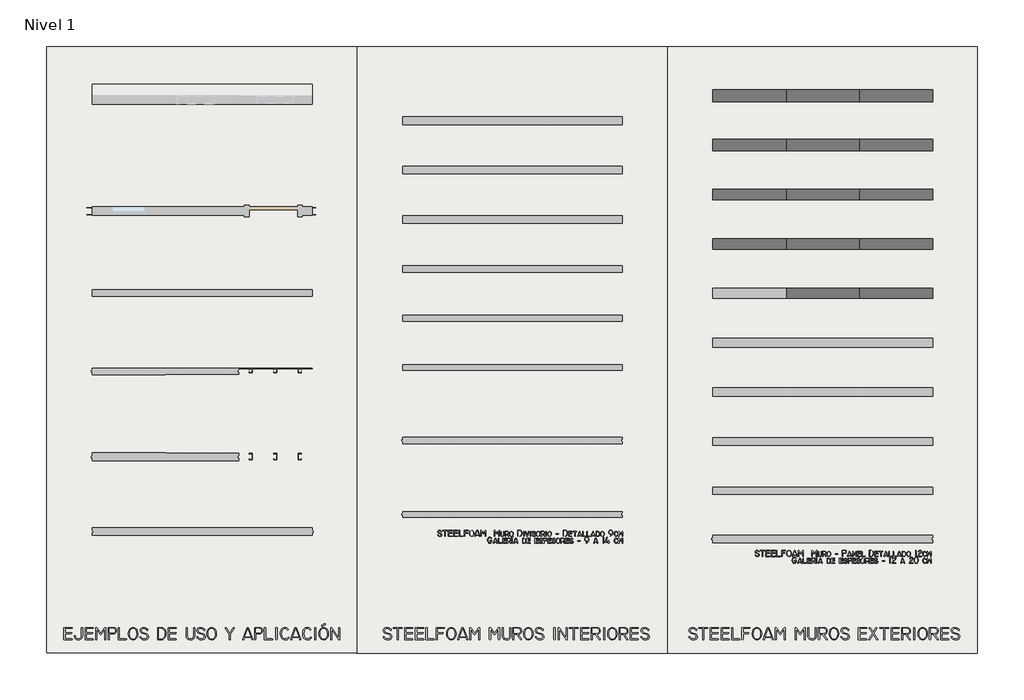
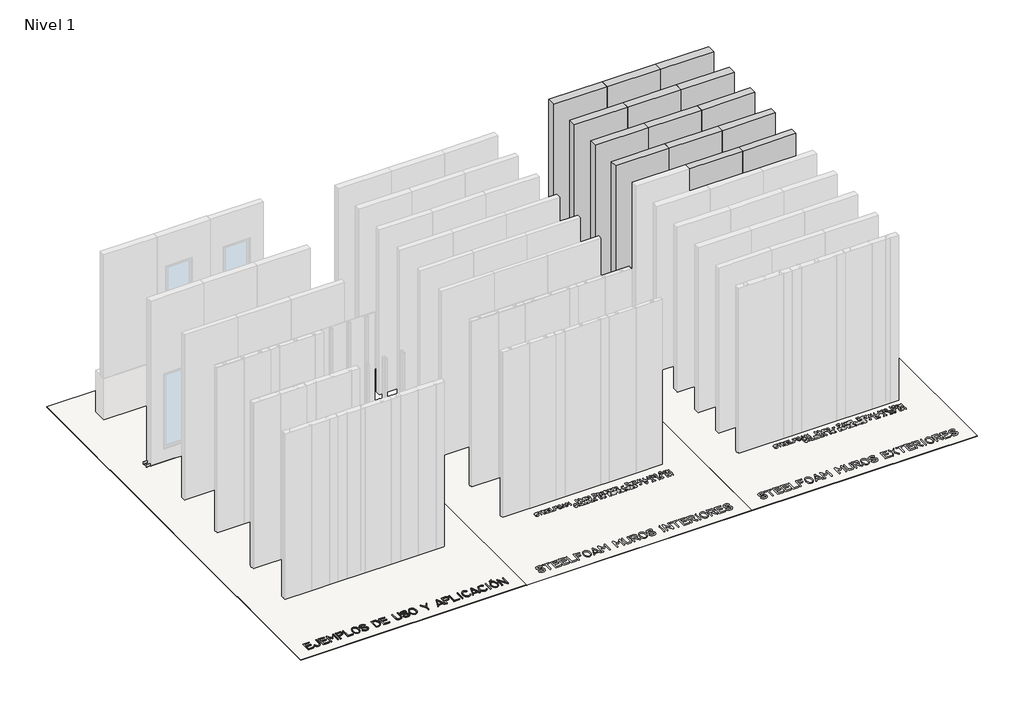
# One storey, part 2 of 6: 14 plates, 3 slabs, 2 proxies.
"""IFC4 building model written with IfcOpenShell, lengths in millimetres."""

import ifcopenshell
import ifcopenshell.guid

model = None  # the IFC model being written
_history = None  # IfcOwnerHistory: only IFC2X3 demands one
_inside = {}  # id of a spatial element -> (the spatial element, [elements in it])
_under = {}  # id of a project, library or spatial element -> (it, [spatial elements below it])
_declared = {}  # id of a project -> (the project, [libraries it declares])
_typed = {}  # id of a type object -> (the type object, [elements of that type])
_made_of = {}  # id of a material, layer set ... -> (it, [elements and type objects made of it])


def new_model(schema):
    """Start an empty IFC model of exactly this schema.

    Asked for "IFC4X3", IfcOpenShell would pick the latest addendum, in which some entities
    have other attributes; the version numbers below select the first issue.
    IFC2X3 requires an IfcOwnerHistory on every rooted entity: one is made here for all.
    """
    global model, _history
    if schema == "IFC4X3":
        model = ifcopenshell.file(schema_version=(4, 3, 0, 0))
    else:
        model = ifcopenshell.file(schema=schema)
    _inside.clear()
    _under.clear()
    _declared.clear()
    _typed.clear()
    _made_of.clear()
    _history = None
    if model.schema == "IFC2X3":
        org = make("IfcOrganization", Name="unknown")
        user = make(
            "IfcPersonAndOrganization",
            ThePerson=make("IfcPerson", FamilyName="unknown"),
            TheOrganization=org,
        )
        app = make(
            "IfcApplication",
            ApplicationDeveloper=org,
            Version="unknown",
            ApplicationFullName="unknown",
            ApplicationIdentifier="unknown",
        )
        _history = make(
            "IfcOwnerHistory",
            OwningUser=user,
            OwningApplication=app,
            ChangeAction="ADDED",
            CreationDate=0,
        )
    return model


def make(cls, **values):
    """One entity of the class cls with the attributes given. An attribute that is None is left unset."""
    return model.create_entity(
        cls, **{name: value for name, value in values.items() if value is not None}
    )


def rooted(cls, **values):
    """An entity with a GlobalId (a new one), such as an element, a storey or a relation."""
    return make(cls, GlobalId=ifcopenshell.guid.new(), OwnerHistory=_history, **values)


def si_unit(unit_type, name, prefix=None):
    """IfcSIUnit, for example si_unit("LENGTHUNIT", "METRE", prefix="MILLI")."""
    return make("IfcSIUnit", UnitType=unit_type, Prefix=prefix, Name=name)


def assignment(units):
    """IfcUnitAssignment: the units of a project."""
    return None if units is None else make("IfcUnitAssignment", Units=units)


def point(xyz):
    """IfcCartesianPoint."""
    return None if xyz is None else make("IfcCartesianPoint", Coordinates=xyz)


def direction(xyz):
    """IfcDirection."""
    return None if xyz is None else make("IfcDirection", DirectionRatios=xyz)


def frame(location, z_axis=None, x_axis=None):
    """IfcAxis2Placement3D, a coordinate frame: its origin and axes. An axis left out is left unset."""
    return make(
        "IfcAxis2Placement3D",
        Location=point(location),
        Axis=direction(z_axis),
        RefDirection=direction(x_axis),
    )


def frame_2d(location, x_axis=None):
    """IfcAxis2Placement2D, a coordinate frame in the plane: its origin and x axis."""
    return make(
        "IfcAxis2Placement2D", Location=point(location), RefDirection=direction(x_axis)
    )


def origin():
    """The frame at (0, 0, 0) with its axes left unset."""
    return frame((0.0, 0.0, 0.0))


def origin_with_axes():
    """The frame at (0, 0, 0) with the z axis (0, 0, 1) and the x axis (1, 0, 0) written out."""
    return frame((0.0, 0.0, 0.0), z_axis=(0.0, 0.0, 1.0), x_axis=(1.0, 0.0, 0.0))


def place(relative_to, where):
    """IfcLocalPlacement: puts the frame where relative to a parent placement (None: the world)."""
    return make(
        "IfcLocalPlacement", PlacementRelTo=relative_to, RelativePlacement=where
    )


def context(
    kind, dimensions, precision=None, world=None, true_north=None, identifier=None
):
    """IfcGeometricRepresentationContext, for example the 3D "Model" context."""
    return make(
        "IfcGeometricRepresentationContext",
        ContextIdentifier=identifier,
        ContextType=kind,
        CoordinateSpaceDimension=dimensions,
        Precision=precision,
        WorldCoordinateSystem=world,
        TrueNorth=true_north,
    )


def project(units=None, contexts=None):
    """IfcProject with its units and contexts."""
    return rooted(
        "IfcProject",
        Name="project",
        RepresentationContexts=contexts,
        UnitsInContext=assignment(units),
    )


def spatial(cls, under=None, at=None, **own):
    """A site, building, storey or space (cls), placed at a placement, below another one or the project."""
    s = rooted(cls, ObjectPlacement=at, **own)
    if under is not None:
        _under.setdefault(under.id(), (under, []))[1].append(s)
    return s


def polyline(points):
    """IfcPolyline through the points."""
    return make("IfcPolyline", Points=[point(p) for p in points])


def circle_curve(where, radius):
    """IfcCircle in the frame where."""
    return make("IfcCircle", Position=where, Radius=radius)


def trimmed(basis, trim1, trim2, sense, master):
    """IfcTrimmedCurve: the piece of a basis curve between two trims."""
    return make(
        "IfcTrimmedCurve",
        BasisCurve=basis,
        Trim1=trim1,
        Trim2=trim2,
        SenseAgreement=sense,
        MasterRepresentation=master,
    )


def segment(curve, same_sense, transition):
    """IfcCompositeCurveSegment."""
    return make(
        "IfcCompositeCurveSegment",
        Transition=transition,
        SameSense=same_sense,
        ParentCurve=curve,
    )


def composite_curve(segments, self_intersect=None):
    """IfcCompositeCurve: segments joined end to end."""
    return make("IfcCompositeCurve", Segments=segments, SelfIntersect=self_intersect)


def outline(outer, holes=None, kind="AREA"):
    """IfcArbitraryClosedProfileDef: a profile drawn as a closed curve; with holes, ...WithVoids."""
    if holes is None:
        return make("IfcArbitraryClosedProfileDef", ProfileType=kind, OuterCurve=outer)
    return make(
        "IfcArbitraryProfileDefWithVoids",
        ProfileType=kind,
        OuterCurve=outer,
        InnerCurves=holes,
    )


def extrude(swept, where, along, depth):
    """IfcExtrudedAreaSolid: the profile swept, set in the frame where, extruded along a direction by depth."""
    return make(
        "IfcExtrudedAreaSolid",
        SweptArea=swept,
        Position=where,
        ExtrudedDirection=direction(along),
        Depth=depth,
    )


def shape(context_of_items, identifier, shape_type, items):
    """IfcShapeRepresentation: the items that make up one representation, for example the "Body"."""
    return make(
        "IfcShapeRepresentation",
        ContextOfItems=context_of_items,
        RepresentationIdentifier=identifier,
        RepresentationType=shape_type,
        Items=items,
    )


def made_of(thing, what):
    """Note that an element or type object is made of a material, layer set ...; save() writes the relation."""
    if what is not None:
        _made_of.setdefault(what.id(), (what, []))[1].append(thing)
    return thing


def element(
    cls,
    number,
    at=None,
    inside=None,
    cuts=None,
    type_object=None,
    material=None,
    context=None,
    identifier="Body",
    shape_type=None,
    held_by="IfcProductDefinitionShape",
    body=None,
    shapes=None,
    **own,
):
    """One element of the class cls, such as IfcWall. Its Tag is "e" and its number.

    at: its placement. inside: the storey or other place that contains it. cuts: it is an
    opening in that element (IfcRelVoidsElement). A single representation is given by context,
    identifier, shape_type and body (its items); several are given by shapes. held_by: the class
    of the entity that holds the representations. save() writes the other relations.
    """
    e = rooted(cls, Tag="e%d" % number, ObjectPlacement=at, **own)
    if body is not None:
        shapes = [shape(context, identifier, shape_type, body)]
    if shapes is not None:
        e.Representation = make(held_by, Representations=shapes)
    if inside is not None:
        _inside.setdefault(inside.id(), (inside, []))[1].append(e)
    if cuts is not None:
        rooted(
            "IfcRelVoidsElement", RelatingBuildingElement=cuts, RelatedOpeningElement=e
        )
    if type_object is not None:
        _typed.setdefault(type_object.id(), (type_object, []))[1].append(e)
    return made_of(e, material)


def aggregate(whole, parts):
    """IfcRelAggregates: a whole, such as a stair, and the parts it consists of."""
    return rooted("IfcRelAggregates", RelatingObject=whole, RelatedObjects=parts)


def save(model, path):
    """Write the relations noted so far, then the file.

    IfcRelAggregates (storeys below a building ...), IfcRelContainedInSpatialStructure (elements
    in a storey), IfcRelDefinesByType, IfcRelAssociatesMaterial and IfcRelDeclares: one each for
    every whole, place, type object, material and project.
    """
    for whole, parts in _under.values():
        aggregate(whole, parts)
    for where, things in _inside.values():
        rooted(
            "IfcRelContainedInSpatialStructure",
            RelatedElements=things,
            RelatingStructure=where,
        )
    for kind, things in _typed.values():
        rooted("IfcRelDefinesByType", RelatedObjects=things, RelatingType=kind)
    for what, things in _made_of.values():
        rooted("IfcRelAssociatesMaterial", RelatedObjects=things, RelatingMaterial=what)
    for by, libraries in _declared.values():
        rooted("IfcRelDeclares", RelatingContext=by, RelatedDefinitions=libraries)
    model.write(path)


model = new_model("IFC4")

# Units and contexts
model_context = context("Model", 3, world=origin())
ifc_project = project(units=[si_unit("LENGTHUNIT", "METRE", prefix="MILLI")], contexts=[model_context])

# Site, building, storey
site = spatial("IfcSite", under=ifc_project)
building = spatial("IfcBuilding", under=site)
storey = spatial("IfcBuildingStorey", under=building, Name="Nivel 1", Elevation=0.0)

# Proxies
placement = place(None, origin())
element("IfcBuildingElementProxy", 1, Name="Steelfoam - Canal Arrastre 12cm", ObjectType="Steelfoam - Canal Arrastre 12cm", at=placement, inside=storey, context=model_context, shape_type="SweptSolid", body=[
    extrude(outline(composite_curve([segment(polyline([(-2504.5871251, 0.2), (-2392.5871251, 0.2)]), True, "CONTINUOUS"), segment(trimmed(circle_curve(frame_2d((-2392.5871251, 4.2)), 4.0), [point((-2392.5871251, 0.2))], [point((-2388.5871251, 4.2))], True, "CARTESIAN"), True, "CONTINUOUS"), segment(polyline([(-2388.5871251, 4.2), (-2388.5871251, 59.3231849), (-2388.3871251, 60.2), (-2388.3871251, 4.2)]), True, "CONTINUOUS"), segment(trimmed(circle_curve(frame_2d((-2392.5871251, 4.2)), 4.2), [point((-2388.3871251, 4.2))], [point((-2392.5871251, 0.0))], False, "CARTESIAN"), True, "CONTINUOUS"), segment(polyline([(-2392.5871251, 0.0), (-2504.5871251, 0.0)]), True, "CONTINUOUS"), segment(trimmed(circle_curve(frame_2d((-2504.5871251, 4.2)), 4.2), [point((-2504.5871251, 0.0))], [point((-2508.7871251, 4.2))], False, "CARTESIAN"), True, "CONTINUOUS"), segment(polyline([(-2508.7871251, 4.2), (-2508.7871251, 60.2), (-2508.5871251, 59.3126662), (-2508.5871251, 4.2)]), True, "CONTINUOUS"), segment(trimmed(circle_curve(frame_2d((-2504.5871251, 4.2)), 4.0), [point((-2508.5871251, 4.2))], [point((-2504.5871251, 0.2))], True, "CARTESIAN"), True, "CONTINUOUS")], self_intersect=False)), frame((-2529.1407434, 0.0, 0.0), z_axis=(1.0, 0.0, 0.0), x_axis=(0.0, 1.0, 0.0)), (0.0, 0.0, 1.0), 2700.0),
    extrude(outline(composite_curve([segment(polyline([(-2504.5871251, 0.2), (-2392.5871251, 0.2)]), True, "CONTINUOUS"), segment(trimmed(circle_curve(frame_2d((-2392.5871251, 4.2)), 4.0), [point((-2392.5871251, 0.2))], [point((-2388.5871251, 4.2))], True, "CARTESIAN"), True, "CONTINUOUS"), segment(polyline([(-2388.5871251, 4.2), (-2388.5871251, 59.3231849), (-2388.3871251, 60.2), (-2388.3871251, 4.2)]), True, "CONTINUOUS"), segment(trimmed(circle_curve(frame_2d((-2392.5871251, 4.2)), 4.2), [point((-2388.3871251, 4.2))], [point((-2392.5871251, 0.0))], False, "CARTESIAN"), True, "CONTINUOUS"), segment(polyline([(-2392.5871251, 0.0), (-2504.5871251, 0.0)]), True, "CONTINUOUS"), segment(trimmed(circle_curve(frame_2d((-2504.5871251, 4.2)), 4.2), [point((-2504.5871251, 0.0))], [point((-2508.7871251, 4.2))], False, "CARTESIAN"), True, "CONTINUOUS"), segment(polyline([(-2508.7871251, 4.2), (-2508.7871251, 60.2), (-2508.5871251, 59.3126662), (-2508.5871251, 4.2)]), True, "CONTINUOUS"), segment(trimmed(circle_curve(frame_2d((-2504.5871251, 4.2)), 4.0), [point((-2508.5871251, 4.2))], [point((-2504.5871251, 0.2))], True, "CARTESIAN"), True, "CONTINUOUS")], self_intersect=False)), frame((983.8592566, 0.0, 0.0), z_axis=(1.0, 0.0, 0.0), x_axis=(0.0, 1.0, 0.0)), (0.0, 0.0, 1.0), 300.0),
])
element("IfcBuildingElementProxy", 2, Name="20cm", ObjectType="20cm", at=placement, inside=storey, context=model_context, shape_type="SweptSolid", body=[
    extrude(outline(polyline([(-2781.9460024, -9586.2207698), (-2910.2303771, -9586.2207698), (-2910.2303771, -9379.7142154), (-2781.9460024, -9379.7142154), (-2775.2360061, -9381.278659), (-2772.9993406, -9385.9719898), (-2775.2237839, -9393.011986), (-2781.8971136, -9395.3586514), (-2891.457054, -9395.3586514), (-2891.457054, -9464.1941695), (-2788.3015545, -9464.1941695), (-2781.6282248, -9465.7586131), (-2779.4037816, -9470.4519439), (-2781.6282248, -9477.49194), (-2788.3015545, -9479.8386054), (-2891.457054, -9479.8386054), (-2891.457054, -9570.5763339), (-2781.8971136, -9570.5763339), (-2775.2237839, -9572.1407775), (-2772.9993406, -9576.8341083), (-2775.2360061, -9583.8741044), (-2781.9460024, -9586.2207698)])), origin_with_axes(), (0.0, 0.0, 1.0), 20.0),
    extrude(outline(polyline([(-2600.4705455, -9515.0385863), (-2605.3105429, -9540.1674615), (-2619.830535, -9562.6563382), (-2643.6516332, -9580.3296619), (-2672.6793952, -9586.2207698), (-2697.331604, -9580.9774393), (-2719.0749255, -9565.2474479), (-2733.3749177, -9545.3985698), (-2738.1415818, -9524.2785813), (-2735.8682497, -9520.2085835), (-2729.0482534, -9518.8519176), (-2721.7882573, -9520.3308056), (-2719.3682587, -9524.7674699), (-2715.9215939, -9540.6930168), (-2705.5815995, -9555.1274534), (-2689.4971638, -9566.7141138), (-2672.6305063, -9570.5763339), (-2651.7060732, -9565.9807808), (-2633.5194164, -9552.1941216), (-2622.8127556, -9534.7285756), (-2619.2438687, -9514.5008088), (-2619.2438687, -9385.9719898), (-2616.8972033, -9381.278659), (-2609.8572071, -9379.7142154), (-2602.8172109, -9381.278659), (-2600.4705455, -9385.9719898), (-2600.4705455, -9515.0385863)])), origin_with_axes(), (0.0, 0.0, 1.0), 20.0),
    extrude(outline(polyline([(-2431.5106374, -9586.2207698), (-2559.7950121, -9586.2207698), (-2559.7950121, -9379.7142154), (-2431.5106374, -9379.7142154), (-2424.800641, -9381.278659), (-2422.5639756, -9385.9719898), (-2424.7884188, -9393.011986), (-2431.4617485, -9395.3586514), (-2541.021689, -9395.3586514), (-2541.021689, -9464.1941695), (-2437.8661895, -9464.1941695), (-2431.1928598, -9465.7586131), (-2428.9684165, -9470.4519439), (-2431.1928598, -9477.49194), (-2437.8661895, -9479.8386054), (-2541.021689, -9479.8386054), (-2541.021689, -9570.5763339), (-2431.4617485, -9570.5763339), (-2424.7884188, -9572.1407775), (-2422.5639756, -9576.8341083), (-2424.800641, -9583.8741044), (-2431.5106374, -9586.2207698)])), origin_with_axes(), (0.0, 0.0, 1.0), 20.0),
    extrude(outline(polyline([(-2212.4885342, -9576.8341083), (-2214.8351996, -9583.8741044), (-2221.8751958, -9586.2207698), (-2228.915192, -9583.8741044), (-2231.2618574, -9576.8341083), (-2231.2618574, -9403.2786471), (-2287.8751599, -9490.1052665), (-2297.9951544, -9496.6563741), (-2307.5773714, -9490.6919329), (-2362.6751193, -9403.5719802), (-2362.6751193, -9576.8341083), (-2365.0217846, -9583.8741044), (-2372.0617808, -9586.2207698), (-2379.101777, -9583.8741044), (-2381.4484424, -9576.8341083), (-2381.4484424, -9386.5097673), (-2378.930666, -9381.4131034), (-2371.3773367, -9379.7142154), (-2362.3451194, -9382.244214), (-2355.6840119, -9389.8342099), (-2297.8973767, -9474.0208308), (-2238.9374087, -9390.2742097), (-2231.8485237, -9382.354214), (-2222.9996396, -9379.7142154), (-2215.1163106, -9381.6331033), (-2212.4885342, -9387.3897668), (-2212.4885342, -9576.8341083)])), origin_with_axes(), (0.0, 0.0, 1.0), 20.0),
    extrude(outline(polyline([(-2037.2708517, -9430.998632), (-2040.3264056, -9451.9475095), (-2049.4930673, -9468.1541673), (-2064.6852813, -9479.2641613), (-2085.1330479, -9482.9674926), (-2153.0396777, -9482.9674926), (-2153.0396777, -9576.8341083), (-2155.3863431, -9583.8741044), (-2162.4263392, -9586.2207698), (-2169.4663354, -9583.8741044), (-2171.8130008, -9576.8341083), (-2171.8130008, -9379.7142154), (-2090.7063782, -9379.7142154), (-2067.3283354, -9382.9194915), (-2050.6297333, -9392.5353196), (-2040.6105721, -9408.5616997), (-2037.2708517, -9430.998632)]), holes=[polyline([(-2056.0441748, -9430.9497431), (-2058.2227848, -9415.3786405), (-2064.7586146, -9404.2564243), (-2075.6516642, -9397.5830946), (-2090.9019337, -9395.3586514), (-2153.0396777, -9395.3586514), (-2153.0396777, -9467.3230567), (-2085.6708254, -9467.3230567), (-2073.5341653, -9464.9152802), (-2064.1108371, -9457.6919508), (-2058.0608404, -9446.1908459), (-2056.0441748, -9430.9497431)])]), origin_with_axes(), (0.0, 0.0, 1.0), 20.0),
    extrude(outline(polyline([(-1877.6976051, -9586.2207698), (-2005.9819798, -9586.2207698), (-2005.9819798, -9385.9719898), (-2003.6353144, -9381.278659), (-1996.5953183, -9379.7142154), (-1989.5553221, -9381.278659), (-1987.2086567, -9385.9719898), (-1987.2086567, -9570.5763339), (-1877.6487163, -9570.5763339), (-1870.9753866, -9572.1407775), (-1868.7509433, -9576.8341083), (-1870.9876088, -9583.8741044), (-1877.6976051, -9586.2207698)])), origin_with_axes(), (0.0, 0.0, 1.0), 20.0),
    extrude(outline(polyline([(-1680.5777123, -9482.4297151), (-1685.5277096, -9520.9296942), (-1700.3777015, -9553.3185655), (-1712.2424173, -9567.7132799), (-1725.8365766, -9577.9952187), (-1741.1601794, -9584.164382), (-1758.2132257, -9586.2207698), (-1775.3029386, -9584.1674376), (-1790.7365413, -9578.0074409), (-1804.5140338, -9567.7407799), (-1816.6354161, -9553.3674543), (-1831.9254078, -9520.7952498), (-1837.0220717, -9482.4297151), (-1832.2309632, -9444.8952911), (-1817.8576377, -9412.0786423), (-1806.5581994, -9397.9192055), (-1793.4376509, -9387.8053221), (-1778.4959924, -9381.7369921), (-1761.7332237, -9379.7142154), (-1743.7665668, -9381.7369921), (-1727.7554644, -9387.8053221), (-1713.6999165, -9397.9192055), (-1701.5999231, -9412.0786423), (-1685.833265, -9444.9686244), (-1680.5777123, -9482.4297151)]), holes=[polyline([(-1699.3510354, -9482.4297151), (-1703.3354777, -9449.8575106), (-1715.2888045, -9422.5408588), (-1724.7701883, -9410.648643), (-1735.6632379, -9402.1542032), (-1747.9679534, -9397.0575393), (-1761.6843349, -9395.3586514), (-1774.3557169, -9397.0514282), (-1785.6276552, -9402.1297588), (-1795.5001498, -9410.5936431), (-1803.9732008, -9422.4430811), (-1814.6798616, -9449.6375107), (-1818.2487486, -9482.4297151), (-1814.3498618, -9515.930808), (-1802.6532015, -9543.1007933), (-1793.2757066, -9555.1213423), (-1782.7432123, -9563.7074487), (-1771.0557187, -9568.8591126), (-1758.2132257, -9570.5763339), (-1745.3432326, -9568.8591126), (-1733.7199056, -9563.7074487), (-1723.3432446, -9555.1213423), (-1714.2132496, -9543.1007933), (-1703.066589, -9516.0041413), (-1699.3510354, -9482.4297151)])]), origin_with_axes(), (0.0, 0.0, 1.0), 20.0),
    extrude(outline(polyline([(-1502.2311426, -9530.4874668), (-1506.8297512, -9554.8707869), (-1520.625577, -9572.2874441), (-1543.6186201, -9582.7374384), (-1575.8088804, -9586.2207698), (-1595.7127584, -9583.3668825), (-1614.8466369, -9574.8052205), (-1631.7316277, -9561.2935611), (-1644.8888428, -9543.5896819), (-1646.1599532, -9538.7985734), (-1643.8499545, -9533.8852427), (-1636.9199583, -9532.2474658), (-1630.0755175, -9535.034131), (-1619.2527456, -9550.3546782), (-1605.6555308, -9561.5074499), (-1590.7994278, -9568.3091129), (-1576.1999913, -9570.5763339), (-1552.0519488, -9568.0249464), (-1534.8033471, -9560.3707839), (-1524.4541861, -9547.6138464), (-1521.0044657, -9529.7541338), (-1522.8500203, -9519.1360841), (-1528.3866839, -9509.6730337), (-1550.5333386, -9494.2119309), (-1609.7377508, -9472.2119429), (-1624.3035762, -9463.5280587), (-1634.7077372, -9453.2186199), (-1640.9502338, -9441.2836264), (-1643.0310661, -9427.7230782), (-1639.1107904, -9407.6175336), (-1627.3499635, -9392.9142082), (-1607.7485852, -9383.6131022), (-1580.3066557, -9379.7142154), (-1558.8200007, -9380.1542152), (-1537.57779, -9389.4919879), (-1517.6311342, -9404.1708688), (-1512.6444703, -9412.3628088), (-1510.982249, -9421.1230818), (-1513.19447, -9427.1364119), (-1519.831133, -9429.1408552), (-1525.5022411, -9427.5641894), (-1528.8266837, -9422.834192), (-1535.6955688, -9411.1314206), (-1547.4044514, -9402.1297588), (-1562.3399988, -9396.6114285), (-1578.8888787, -9395.3586514), (-1598.7377568, -9398.2155942), (-1612.9155269, -9404.635313), (-1621.4221889, -9414.6178076), (-1624.2577429, -9428.163078), (-1622.3388551, -9438.3808502), (-1616.5821915, -9447.5230674), (-1593.5555374, -9462.580837), (-1534.4977917, -9485.0208248), (-1520.3811327, -9494.2608198), (-1510.2978049, -9504.9185918), (-1504.2478082, -9516.9941408), (-1502.2311426, -9530.4874668)])), origin_with_axes(), (0.0, 0.0, 1.0), 20.0),
    extrude(outline(polyline([(-1211.2446341, -9474.656386), (-1213.0718554, -9501.3924826), (-1218.553519, -9524.7919143), (-1227.6896252, -9544.8546812), (-1240.4801738, -9561.5807832), (-1253.136278, -9572.3607773), (-1267.1490482, -9580.0607732), (-1282.5184843, -9584.6807707), (-1299.2445863, -9586.2207698), (-1352.0445576, -9586.2207698), (-1352.0445576, -9379.7142154), (-1299.5379195, -9379.7142154), (-1267.2957148, -9385.2753235), (-1240.5779515, -9401.9586478), (-1227.7446252, -9416.6405842), (-1218.5779635, -9433.6508528), (-1213.0779665, -9452.9894534), (-1211.2446341, -9474.656386)]), holes=[polyline([(-1230.0179573, -9474.5097194), (-1231.4632342, -9456.0786183), (-1235.7990652, -9439.7986272), (-1243.0254502, -9425.669746), (-1253.1423891, -9413.6919747), (-1274.4457109, -9399.9419822), (-1299.2445863, -9395.3586514), (-1333.2712345, -9395.3586514), (-1333.2712345, -9570.5763339), (-1298.9512531, -9570.5763339), (-1274.4334887, -9565.2596701), (-1252.9957225, -9549.3096788), (-1242.9429502, -9535.321353), (-1235.7623986, -9518.1919179), (-1231.4540676, -9497.9213734), (-1230.0179573, -9474.5097194)])]), origin_with_axes(), (0.0, 0.0, 1.0), 20.0),
    extrude(outline(polyline([(-1045.4136132, -9586.2207698), (-1173.6979879, -9586.2207698), (-1173.6979879, -9379.7142154), (-1045.4136132, -9379.7142154), (-1038.7036168, -9381.278659), (-1036.4669514, -9385.9719898), (-1038.6913946, -9393.011986), (-1045.3647243, -9395.3586514), (-1154.9246647, -9395.3586514), (-1154.9246647, -9464.1941695), (-1051.7691653, -9464.1941695), (-1045.0958356, -9465.7586131), (-1042.8713923, -9470.4519439), (-1045.0958356, -9477.49194), (-1051.7691653, -9479.8386054), (-1154.9246647, -9479.8386054), (-1154.9246647, -9570.5763339), (-1045.3647243, -9570.5763339), (-1038.6913946, -9572.1407775), (-1036.4669514, -9576.8341083), (-1038.7036168, -9583.8741044), (-1045.4136132, -9586.2207698)])), origin_with_axes(), (0.0, 0.0, 1.0), 20.0),
    extrude(outline(polyline([(-732.5248944, -9516.5052522), (-736.8026698, -9545.1724588), (-749.6359962, -9566.3474473), (-771.0248735, -9580.0302176), (-800.9693016, -9586.2207698), (-827.8337315, -9583.4952157), (-851.5203853, -9571.2118891), (-862.4287127, -9560.7527281), (-870.2203751, -9548.4907903), (-874.8953725, -9534.4260758), (-876.453705, -9518.5585844), (-876.453705, -9385.9719898), (-874.1070396, -9381.278659), (-867.0670435, -9379.7142154), (-860.0270473, -9381.278659), (-857.6803819, -9385.9719898), (-857.6803819, -9518.0208069), (-853.1459399, -9541.7074607), (-839.542614, -9558.8918958), (-821.7226237, -9566.8241137), (-802.2893009, -9570.5763339), (-779.9807019, -9565.9166142), (-764.0459884, -9555.2618978), (-754.4851602, -9538.6121846), (-751.2982175, -9515.9674747), (-751.2982175, -9385.9719898), (-748.9515521, -9381.278659), (-741.911556, -9379.7142154), (-734.8715598, -9381.278659), (-732.5248944, -9385.9719898), (-732.5248944, -9516.5052522)])), origin_with_axes(), (0.0, 0.0, 1.0), 20.0),
    extrude(outline(polyline([(-557.3072119, -9530.4874668), (-561.9058205, -9554.8707869), (-575.7016463, -9572.2874441), (-598.6946894, -9582.7374384), (-630.8849497, -9586.2207698), (-650.7888277, -9583.3668825), (-669.9227062, -9574.8052205), (-686.807697, -9561.2935611), (-699.9649121, -9543.5896819), (-701.2360225, -9538.7985734), (-698.9260238, -9533.8852427), (-691.9960275, -9532.2474658), (-685.1515868, -9535.034131), (-674.3288149, -9550.3546782), (-660.7316001, -9561.5074499), (-645.8754971, -9568.3091129), (-631.2760605, -9570.5763339), (-607.1280181, -9568.0249464), (-589.8794164, -9560.3707839), (-579.5302553, -9547.6138464), (-576.080535, -9529.7541338), (-577.9260896, -9519.1360841), (-583.4627532, -9509.6730337), (-605.6094078, -9494.2119309), (-664.8138201, -9472.2119429), (-679.3796455, -9463.5280587), (-689.7838065, -9453.2186199), (-696.0263031, -9441.2836264), (-698.1071353, -9427.7230782), (-694.1868597, -9407.6175336), (-682.4260327, -9392.9142082), (-662.8246545, -9383.6131022), (-635.382725, -9379.7142154), (-613.89607, -9380.1542152), (-592.6538593, -9389.4919879), (-572.7072035, -9404.1708688), (-567.7205395, -9412.3628088), (-566.0583182, -9421.1230818), (-568.2705392, -9427.1364119), (-574.9072023, -9429.1408552), (-580.5783103, -9427.5641894), (-583.902753, -9422.834192), (-590.7716381, -9411.1314206), (-602.4805206, -9402.1297588), (-617.4160681, -9396.6114285), (-633.964948, -9395.3586514), (-653.8138261, -9398.2155942), (-667.9915961, -9404.635313), (-676.4982582, -9414.6178076), (-679.3338122, -9428.163078), (-677.4149244, -9438.3808502), (-671.6582608, -9447.5230674), (-648.6316067, -9462.580837), (-589.573861, -9485.0208248), (-575.457202, -9494.2608198), (-565.3738742, -9504.9185918), (-559.3238774, -9516.9941408), (-557.3072119, -9530.4874668)])), origin_with_axes(), (0.0, 0.0, 1.0), 20.0),
    extrude(outline(polyline([(-372.7028678, -9482.4297151), (-377.6528651, -9520.9296942), (-392.502857, -9553.3185655), (-404.3675728, -9567.7132799), (-417.9617321, -9577.9952187), (-433.2853349, -9584.164382), (-450.3383811, -9586.2207698), (-467.4280941, -9584.1674376), (-482.8616968, -9578.0074409), (-496.6391893, -9567.7407799), (-508.7605716, -9553.3674543), (-524.0505633, -9520.7952498), (-529.1472272, -9482.4297151), (-524.3561187, -9444.8952911), (-509.9827932, -9412.0786423), (-498.6833549, -9397.9192055), (-485.5628064, -9387.8053221), (-470.6211479, -9381.7369921), (-453.8583792, -9379.7142154), (-435.8917223, -9381.7369921), (-419.8806199, -9387.8053221), (-405.825072, -9397.9192055), (-393.7250786, -9412.0786423), (-377.9584205, -9444.9686244), (-372.7028678, -9482.4297151)]), holes=[polyline([(-391.4761909, -9482.4297151), (-395.4606332, -9449.8575106), (-407.41396, -9422.5408588), (-416.8953438, -9410.648643), (-427.7883934, -9402.1542032), (-440.0931089, -9397.0575393), (-453.8094904, -9395.3586514), (-466.4808724, -9397.0514282), (-477.7528107, -9402.1297588), (-487.6253053, -9410.5936431), (-496.0983563, -9422.4430811), (-506.8050171, -9449.6375107), (-510.3739041, -9482.4297151), (-506.4750173, -9515.930808), (-494.778357, -9543.1007933), (-485.4008621, -9555.1213423), (-474.8683678, -9563.7074487), (-463.1808742, -9568.8591126), (-450.3383811, -9570.5763339), (-437.4683881, -9568.8591126), (-425.8450611, -9563.7074487), (-415.4684001, -9555.1213423), (-406.3384051, -9543.1007933), (-395.1917445, -9516.0041413), (-391.4761909, -9482.4297151)])]), origin_with_axes(), (0.0, 0.0, 1.0), 20.0),
    extrude(outline(polyline([(-75.6541404, -9393.5986523), (-138.0363287, -9489.7630445), (-138.0363287, -9576.8341083), (-140.3829941, -9583.8741044), (-147.4229903, -9586.2207698), (-154.4629864, -9583.8741044), (-156.8096518, -9576.8341083), (-156.8096518, -9489.9585999), (-220.9518392, -9392.9630971), (-222.5162828, -9385.9719898), (-220.0596174, -9381.278659), (-212.6896215, -9379.7142154), (-207.8251797, -9381.1564369), (-204.7696258, -9385.4831012), (-147.520768, -9472.4563872), (-91.6407984, -9385.8742121), (-88.3652446, -9381.2542146), (-83.0363586, -9379.7142154), (-75.006363, -9381.5964366), (-72.3296978, -9387.2431002), (-75.6541404, -9393.5986523)])), origin_with_axes(), (0.0, 0.0, 1.0), 20.0),
    extrude(outline(polyline([(236.0123568, -9575.0252203), (236.8923563, -9577.4207746), (234.4968021, -9584.020771), (227.3101393, -9586.2207698), (221.8590312, -9583.7274378), (218.3145887, -9576.2474419), (204.6745961, -9545.5452364), (97.0213213, -9545.5452364), (83.6746619, -9580.5496618), (80.3257748, -9584.8029928), (74.9724444, -9586.2207698), (67.749115, -9584.020771), (65.3413385, -9577.4207746), (65.9280049, -9575.856331), (137.6479659, -9386.7542116), (141.6568526, -9381.4742145), (149.674626, -9379.7142154), (157.4479551, -9381.5353255), (161.7990638, -9386.9986559), (236.0123568, -9575.0252203)]), holes=[polyline([(198.8079326, -9529.9008004), (149.7724037, -9401.2253148), (102.790207, -9529.9008004), (198.8079326, -9529.9008004)])]), origin_with_axes(), (0.0, 0.0, 1.0), 20.0),
    extrude(outline(polyline([(397.0033804, -9430.998632), (393.9478265, -9451.9475095), (384.7811648, -9468.1541673), (369.5889509, -9479.2641613), (349.1411842, -9482.9674926), (281.2345545, -9482.9674926), (281.2345545, -9576.8341083), (278.8878891, -9583.8741044), (271.8478929, -9586.2207698), (264.8078967, -9583.8741044), (262.4612313, -9576.8341083), (262.4612313, -9379.7142154), (343.5678539, -9379.7142154), (366.9458968, -9382.9194915), (383.6444988, -9392.5353196), (393.66366, -9408.5616997), (397.0033804, -9430.998632)]), holes=[polyline([(378.2300573, -9430.9497431), (376.0514474, -9415.3786405), (369.5156176, -9404.2564243), (358.6225679, -9397.5830946), (343.3722985, -9395.3586514), (281.2345545, -9395.3586514), (281.2345545, -9467.3230567), (348.6034067, -9467.3230567), (360.7400668, -9464.9152802), (370.163395, -9457.6919508), (376.2133917, -9446.1908459), (378.2300573, -9430.9497431)])]), origin_with_axes(), (0.0, 0.0, 1.0), 20.0),
    extrude(outline(polyline([(556.576627, -9586.2207698), (428.2922523, -9586.2207698), (428.2922523, -9385.9719898), (430.6389177, -9381.278659), (437.6789139, -9379.7142154), (444.71891, -9381.278659), (447.0655754, -9385.9719898), (447.0655754, -9570.5763339), (556.6255159, -9570.5763339), (563.2988456, -9572.1407775), (565.5232888, -9576.8341083), (563.2866233, -9583.8741044), (556.576627, -9586.2207698)])), origin_with_axes(), (0.0, 0.0, 1.0), 20.0),
    extrude(outline(polyline([(637.9276939, -9576.8341083), (635.5810285, -9583.8741044), (628.5410323, -9586.2207698), (621.5010361, -9583.8741044), (619.1543707, -9576.8341083), (619.1543707, -9385.9719898), (621.5010361, -9381.278659), (628.5410323, -9379.7142154), (635.5810285, -9381.278659), (637.9276939, -9385.9719898), (637.9276939, -9576.8341083)])), origin_with_axes(), (0.0, 0.0, 1.0), 20.0),
    extrude(outline(polyline([(835.3409199, -9554.4430093), (820.3075947, -9569.6107788), (804.9320475, -9579.425218), (789.4465004, -9584.5218818), (770.7587328, -9586.2207698), (754.0295752, -9584.3813264), (738.8954168, -9578.862996), (725.3562575, -9569.6657788), (713.4120973, -9556.7896747), (703.6587693, -9540.90385), (696.6921064, -9522.677471), (691.1187761, -9479.2030502), (692.6771086, -9455.4155632), (697.352106, -9434.5064079), (705.1437684, -9416.4755843), (716.0520958, -9401.3230926), (738.4676392, -9385.1164347), (766.1142909, -9379.7142154), (786.7698352, -9381.2297701), (801.8031603, -9385.7764343), (815.7364861, -9395.9086511), (826.6387024, -9410.5630875), (828.0075905, -9413.5453081), (825.709814, -9420.4386377), (818.8164844, -9422.7364143), (811.4342662, -9418.2386389), (803.0742708, -9407.0553117), (793.1498317, -9399.8075378), (766.5542906, -9395.3586514), (746.0331907, -9399.8564267), (729.0565332, -9413.3497527), (720.6720933, -9425.9019681), (714.6832077, -9441.0697376), (709.8920992, -9479.2519391), (714.4326523, -9516.4869188), (728.0543115, -9545.5696808), (748.0681896, -9564.3246706), (759.4638778, -9569.0134181), (771.7853989, -9570.5763339), (797.7209403, -9565.3941145), (809.3381562, -9557.6818964), (821.9453716, -9544.9096812), (828.3987014, -9543.0030155), (835.292031, -9544.4207925), (837.5898075, -9548.6741236), (835.3409199, -9554.4430093)])), origin_with_axes(), (0.0, 0.0, 1.0), 20.0),
    extrude(outline(polyline([(1033.8785897, -9575.0252203), (1034.7585892, -9577.4207746), (1032.363035, -9584.020771), (1025.1763722, -9586.2207698), (1019.7252641, -9583.7274378), (1016.1808216, -9576.2474419), (1002.540829, -9545.5452364), (894.8875542, -9545.5452364), (881.5408948, -9580.5496618), (878.1920077, -9584.8029928), (872.8386773, -9586.2207698), (865.6153479, -9584.020771), (863.2075714, -9577.4207746), (863.7942377, -9575.856331), (935.5141988, -9386.7542116), (939.5230855, -9381.4742145), (947.5408589, -9379.7142154), (955.314188, -9381.5353255), (959.6652967, -9386.9986559), (1033.8785897, -9575.0252203)]), holes=[polyline([(996.6741655, -9529.9008004), (947.6386366, -9401.2253148), (900.6564399, -9529.9008004), (996.6741655, -9529.9008004)])]), origin_with_axes(), (0.0, 0.0, 1.0), 20.0),
    extrude(outline(polyline([(1207.6784952, -9554.4430093), (1192.6451701, -9569.6107788), (1177.2696229, -9579.425218), (1161.7840757, -9584.5218818), (1143.0963081, -9586.2207698), (1126.3671506, -9584.3813264), (1111.2329921, -9578.862996), (1097.6938328, -9569.6657788), (1085.7496726, -9556.7896747), (1075.9963446, -9540.90385), (1069.0296817, -9522.677471), (1063.4563514, -9479.2030502), (1065.0146839, -9455.4155632), (1069.6896814, -9434.5064079), (1077.4813438, -9416.4755843), (1088.3896712, -9401.3230926), (1110.8052146, -9385.1164347), (1138.4518662, -9379.7142154), (1159.1074105, -9381.2297701), (1174.1407357, -9385.7764343), (1188.0740614, -9395.9086511), (1198.9762777, -9410.5630875), (1200.3451659, -9413.5453081), (1198.0473894, -9420.4386377), (1191.1540598, -9422.7364143), (1183.7718416, -9418.2386389), (1175.4118461, -9407.0553117), (1165.4874071, -9399.8075378), (1138.891866, -9395.3586514), (1118.370766, -9399.8564267), (1101.3941086, -9413.3497527), (1093.0096687, -9425.9019681), (1087.0207831, -9441.0697376), (1082.2296745, -9479.2519391), (1086.7702276, -9516.4869188), (1100.3918869, -9545.5696808), (1120.4057649, -9564.3246706), (1131.8014532, -9569.0134181), (1144.1229742, -9570.5763339), (1170.0585157, -9565.3941145), (1181.6757316, -9557.6818964), (1194.282947, -9544.9096812), (1200.7362768, -9543.0030155), (1207.6296064, -9544.4207925), (1209.9273829, -9548.6741236), (1207.6784952, -9554.4430093)])), origin_with_axes(), (0.0, 0.0, 1.0), 20.0),
    extrude(outline(polyline([(1285.6073418, -9576.8341083), (1283.2606764, -9583.8741044), (1276.2206802, -9586.2207698), (1269.180684, -9583.8741044), (1266.8340186, -9576.8341083), (1266.8340186, -9385.9719898), (1269.180684, -9381.278659), (1276.2206802, -9379.7142154), (1283.2606764, -9381.278659), (1285.6073418, -9385.9719898), (1285.6073418, -9576.8341083)])), origin_with_axes(), (0.0, 0.0, 1.0), 20.0),
    extrude(outline(polyline([(1492.1138962, -9482.4297151), (1487.1638988, -9520.9296942), (1472.3139069, -9553.3185655), (1460.4491911, -9567.7132799), (1446.8550319, -9577.9952187), (1431.5314291, -9584.164382), (1414.4783828, -9586.2207698), (1397.3886699, -9584.1674376), (1381.9550672, -9578.0074409), (1368.1775746, -9567.7407799), (1356.0561923, -9553.3674543), (1340.7662007, -9520.7952498), (1335.6695368, -9482.4297151), (1340.4606453, -9444.8952911), (1354.8339708, -9412.0786423), (1366.1334091, -9397.9192055), (1379.2539575, -9387.8053221), (1394.1956161, -9381.7369921), (1410.9583847, -9379.7142154), (1428.9250416, -9381.7369921), (1444.936144, -9387.8053221), (1458.9916919, -9397.9192055), (1471.0916854, -9412.0786423), (1486.8583435, -9444.9686244), (1492.1138962, -9482.4297151)]), holes=[polyline([(1473.340573, -9482.4297151), (1469.3561307, -9449.8575106), (1457.4028039, -9422.5408588), (1447.9214202, -9410.648643), (1437.0283705, -9402.1542032), (1424.723655, -9397.0575393), (1411.0072736, -9395.3586514), (1398.3358916, -9397.0514282), (1387.0639533, -9402.1297588), (1377.1914586, -9410.5936431), (1368.7184077, -9422.4430811), (1358.0117468, -9449.6375107), (1354.4428599, -9482.4297151), (1358.3417467, -9515.930808), (1370.038407, -9543.1007933), (1379.4159019, -9555.1213423), (1389.9483961, -9563.7074487), (1401.6358898, -9568.8591126), (1414.4783828, -9570.5763339), (1427.3483758, -9568.8591126), (1438.9717028, -9563.7074487), (1449.3483638, -9555.1213423), (1458.4783589, -9543.1007933), (1469.6250195, -9516.0041413), (1473.340573, -9482.4297151)])]), origin_with_axes(), (0.0, 0.0, 1.0), 20.0),
    extrude(outline(polyline([(1436.771704, -9332.5364633), (1391.696173, -9357.9097828), (1387.785064, -9357.860894), (1380.7817345, -9355.5508952), (1378.4472913, -9348.620899), (1381.6250673, -9344.70979), (1425.2828214, -9320.21647), (1431.3450403, -9317.1364717), (1438.0550367, -9318.969804), (1440.2917021, -9324.469801), (1436.771704, -9332.5364633)])), origin_with_axes(), (0.0, 0.0, 1.0), 20.0),
    extrude(outline(polyline([(1679.8471274, -9577.7629966), (1677.9404618, -9584.1063265), (1672.2204649, -9586.2207698), (1661.4160263, -9580.9407727), (1548.4338655, -9411.5408648), (1548.4338655, -9577.3718857), (1546.0872001, -9584.0085488), (1539.047204, -9586.2207698), (1532.0072078, -9583.9596599), (1529.6605424, -9577.1763303), (1529.6605424, -9385.0431014), (1531.6038747, -9381.0464369), (1537.4338715, -9379.7142154), (1544.1194234, -9381.4008812), (1549.0205319, -9386.4608784), (1661.0738043, -9554.4430093), (1661.0738043, -9385.6297678), (1663.4204697, -9381.1931035), (1670.4604659, -9379.7142154), (1677.500462, -9381.1931035), (1679.8471274, -9385.6297678), (1679.8471274, -9577.7629966)])), origin_with_axes(), (0.0, 0.0, 1.0), 20.0),
])

# Plates
element("IfcPlate", 3, ObjectType="Steelfoam Muro 20cm", at=placement, inside=storey, context=model_context, shape_type="SweptSolid", body=[
    extrude(outline(polyline([(11553.8816566, -625.7596526), (10333.8816569, -625.7596526), (10333.8816569, -425.7596526), (11553.8816566, -425.7596526), (11553.8816566, -625.7596526)])), origin_with_axes(), (0.0, 0.0, 1.0), 4000.0),
])
element("IfcPlate", 4, ObjectType="Steelfoam Muro 20cm", at=placement, inside=storey, context=model_context, shape_type="SweptSolid", body=[
    extrude(outline(polyline([(10333.8816569, -625.7596526), (9113.8816569, -625.7596526), (9113.8816569, -425.7596526), (10333.8816569, -425.7596526), (10333.8816569, -625.7596526)])), origin_with_axes(), (0.0, 0.0, 1.0), 4000.0),
])
element("IfcPlate", 5, ObjectType="Steelfoam Muro 20cm", at=placement, inside=storey, context=model_context, shape_type="SweptSolid", body=[
    extrude(outline(polyline([(9113.8816569, -625.7596526), (7893.8816566, -625.7596526), (7893.8816566, -425.7596526), (9113.8816569, -425.7596526), (9113.8816569, -625.7596526)])), origin_with_axes(), (0.0, 0.0, 1.0), 4000.0),
])
element("IfcPlate", 6, ObjectType="Steelfoam Muro 16cm", at=placement, inside=storey, context=model_context, shape_type="SweptSolid", body=[
    extrude(outline(polyline([(11553.8816566, -3894.6485415), (10333.8816569, -3894.6485415), (10333.8816569, -3734.6485415), (11553.8816566, -3734.6485415), (11553.8816566, -3894.6485415)])), origin_with_axes(), (0.0, 0.0, 1.0), 4000.0),
])
element("IfcPlate", 7, ObjectType="Steelfoam Muro 16cm", at=placement, inside=storey, context=model_context, shape_type="SweptSolid", body=[
    extrude(outline(polyline([(10333.8816569, -3894.6485415), (9113.8816569, -3894.6485415), (9113.8816569, -3734.6485415), (10333.8816569, -3734.6485415), (10333.8816569, -3894.6485415)])), origin_with_axes(), (0.0, 0.0, 1.0), 4000.0),
])
element("IfcPlate", 8, ObjectType="Steelfoam Muro 17cm", at=placement, inside=storey, context=model_context, shape_type="SweptSolid", body=[
    extrude(outline(polyline([(11553.8816566, -3077.4263193), (10333.8816569, -3077.4263193), (10333.8816569, -2907.4263193), (11553.8816566, -2907.4263193), (11553.8816566, -3077.4263193)])), origin_with_axes(), (0.0, 0.0, 1.0), 4000.0),
])
element("IfcPlate", 9, ObjectType="Steelfoam Muro 17cm", at=placement, inside=storey, context=model_context, shape_type="SweptSolid", body=[
    extrude(outline(polyline([(10333.8816569, -3077.4263193), (9113.8816569, -3077.4263193), (9113.8816569, -2907.4263193), (10333.8816569, -2907.4263193), (10333.8816569, -3077.4263193)])), origin_with_axes(), (0.0, 0.0, 1.0), 4000.0),
])
element("IfcPlate", 10, ObjectType="Steelfoam Muro 17cm", at=placement, inside=storey, context=model_context, shape_type="SweptSolid", body=[
    extrude(outline(polyline([(9113.8816569, -3077.4263193), (7893.8816566, -3077.4263193), (7893.8816566, -2907.4263193), (9113.8816569, -2907.4263193), (9113.8816569, -3077.4263193)])), origin_with_axes(), (0.0, 0.0, 1.0), 4000.0),
])
element("IfcPlate", 11, ObjectType="Steelfoam Muro 18cm", at=placement, inside=storey, context=model_context, shape_type="SweptSolid", body=[
    extrude(outline(polyline([(11553.8816566, -2260.2040971), (10333.8816569, -2260.2040971), (10333.8816569, -2080.2040971), (11553.8816566, -2080.2040971), (11553.8816566, -2260.2040971)])), origin_with_axes(), (0.0, 0.0, 1.0), 4000.0),
])
element("IfcPlate", 12, ObjectType="Steelfoam Muro 18cm", at=placement, inside=storey, context=model_context, shape_type="SweptSolid", body=[
    extrude(outline(polyline([(10333.8816569, -2260.2040971), (9113.8816569, -2260.2040971), (9113.8816569, -2080.2040971), (10333.8816569, -2080.2040971), (10333.8816569, -2260.2040971)])), origin_with_axes(), (0.0, 0.0, 1.0), 4000.0),
])
element("IfcPlate", 13, ObjectType="Steelfoam Muro 18cm", at=placement, inside=storey, context=model_context, shape_type="SweptSolid", body=[
    extrude(outline(polyline([(9113.8816569, -2260.2040971), (7893.8816566, -2260.2040971), (7893.8816566, -2080.2040971), (9113.8816569, -2080.2040971), (9113.8816569, -2260.2040971)])), origin_with_axes(), (0.0, 0.0, 1.0), 4000.0),
])
element("IfcPlate", 14, ObjectType="Steelfoam Muro 19cm", at=placement, inside=storey, context=model_context, shape_type="SweptSolid", body=[
    extrude(outline(polyline([(11553.8816566, -1442.9818749), (10333.8816569, -1442.9818749), (10333.8816569, -1252.9818749), (11553.8816566, -1252.9818749), (11553.8816566, -1442.9818749)])), origin_with_axes(), (0.0, 0.0, 1.0), 4000.0),
])
element("IfcPlate", 15, ObjectType="Steelfoam Muro 19cm", at=placement, inside=storey, context=model_context, shape_type="SweptSolid", body=[
    extrude(outline(polyline([(10333.8816569, -1442.9818749), (9113.8816569, -1442.9818749), (9113.8816569, -1252.9818749), (10333.8816569, -1252.9818749), (10333.8816569, -1442.9818749)])), origin_with_axes(), (0.0, 0.0, 1.0), 4000.0),
])
element("IfcPlate", 16, ObjectType="Steelfoam Muro 19cm", at=placement, inside=storey, context=model_context, shape_type="SweptSolid", body=[
    extrude(outline(polyline([(9113.8816569, -1442.9818749), (7893.8816566, -1442.9818749), (7893.8816566, -1252.9818749), (9113.8816569, -1252.9818749), (9113.8816569, -1442.9818749)])), origin_with_axes(), (0.0, 0.0, 1.0), 4000.0),
])

# Slabs
element("IfcSlab", 17, ObjectType="Lamosa_Amur_60x60_Gris_Ceroso", at=placement, inside=storey, context=model_context, shape_type="SweptSolid", body=[
    extrude(outline(polyline([(1966.3317547, 293.6128749), (1966.3317547, -9801.9879397), (-3200.1407437, -9801.9879397), (-3200.1407437, 293.6128749), (1966.3317547, 293.6128749)])), frame((0.0, 0.0, -9.6), z_axis=(0.0, 0.0, 1.0), x_axis=(1.0, 0.0, 0.0)), (0.0, 0.0, 1.0), 9.6),
])
element("IfcSlab", 18, ObjectType="Lamosa_Madera_Sapeli_18x55_Acebo_Mate", at=placement, inside=storey, context=model_context, shape_type="SweptSolid", body=[
    extrude(outline(polyline([(7132.8042532, 293.6128749), (7132.8042532, -9805.7596526), (1966.3317547, -9805.7596526), (1966.3317547, 293.6128749), (7132.8042532, 293.6128749)])), frame((0.0, 0.0, -10.9), z_axis=(0.0, 0.0, 1.0), x_axis=(1.0, 0.0, 0.0)), (0.0, 0.0, 1.0), 10.9),
])
element("IfcSlab", 19, ObjectType="Lamosa_Marfil_Clasico_44x44_Crema_Mate", at=placement, inside=storey, context=model_context, shape_type="SweptSolid", body=[
    extrude(outline(polyline([(12299.2767516, 293.6128749), (12299.2767516, -9805.7596526), (7132.8042532, -9805.7596526), (7132.8042532, 293.6128749), (12299.2767516, 293.6128749)])), frame((0.0, 0.0, -9.9), z_axis=(0.0, 0.0, 1.0), x_axis=(1.0, 0.0, 0.0)), (0.0, 0.0, 1.0), 9.9),
])

save(model, "model.ifc")
